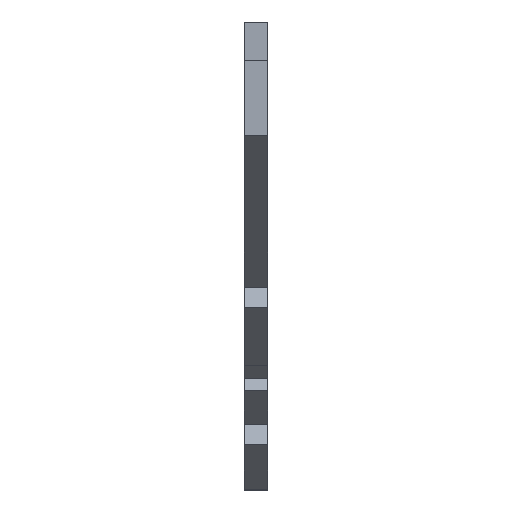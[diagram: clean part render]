
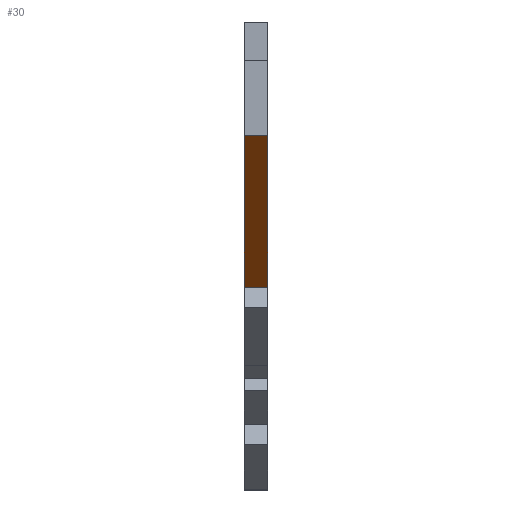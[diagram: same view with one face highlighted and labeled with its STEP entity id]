
A CAD part, top view. The second image highlights one B-rep face of the part: STEP entity #30.
In plain terms, the highlighted planar face has unit normal (0, -0.866, 0.5).
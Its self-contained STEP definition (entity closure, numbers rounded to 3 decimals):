
#30=ADVANCED_FACE('',(#81),#823,.T.);
#81=FACE_OUTER_BOUND('',#132,.T.);
#132=EDGE_LOOP('',(#228,#229,#230,#231));
#228=ORIENTED_EDGE('',*,*,#452,.T.);
#229=ORIENTED_EDGE('',*,*,#481,.F.);
#230=ORIENTED_EDGE('',*,*,#478,.F.);
#231=ORIENTED_EDGE('',*,*,#479,.T.);
#452=EDGE_CURVE('',#730,#731,#591,.T.);
#478=EDGE_CURVE('',#749,#748,#617,.T.);
#479=EDGE_CURVE('',#749,#730,#618,.T.);
#481=EDGE_CURVE('',#748,#731,#620,.T.);
#591=B_SPLINE_CURVE_WITH_KNOTS('',1,(#1194,#1195),.UNSPECIFIED.,.F.,.F.,
(2,2),(0.,3.),.UNSPECIFIED.);
#617=B_SPLINE_CURVE_WITH_KNOTS('',1,(#1246,#1247),.UNSPECIFIED.,.F.,.F.,
(2,2),(-3.,0.),.UNSPECIFIED.);
#618=B_SPLINE_CURVE_WITH_KNOTS('',1,(#1248,#1249),.UNSPECIFIED.,.F.,.F.,
(2,2),(-3.,-2.572),.UNSPECIFIED.);
#620=B_SPLINE_CURVE_WITH_KNOTS('',1,(#1252,#1253),.UNSPECIFIED.,.F.,.F.,
(2,2),(-3.,-2.572),.UNSPECIFIED.);
#730=VERTEX_POINT('',#1090);
#731=VERTEX_POINT('',#1091);
#748=VERTEX_POINT('',#1108);
#749=VERTEX_POINT('',#1109);
#823=PLANE('',#891);
#891=AXIS2_PLACEMENT_3D('',#1049,#938,$);
#938=DIRECTION('',(0.,-0.866,0.5));
#1049=CARTESIAN_POINT('',(48.249,-149.639,121.116));
#1090=CARTESIAN_POINT('',(48.249,-169.069,87.462));
#1091=CARTESIAN_POINT('',(51.249,-169.069,87.462));
#1108=CARTESIAN_POINT('',(51.249,-149.639,121.116));
#1109=CARTESIAN_POINT('',(48.249,-149.639,121.116));
#1194=CARTESIAN_POINT('',(48.249,-169.069,87.462));
#1195=CARTESIAN_POINT('',(51.249,-169.069,87.462));
#1246=CARTESIAN_POINT('',(48.249,-149.639,121.116));
#1247=CARTESIAN_POINT('',(51.249,-149.639,121.116));
#1248=CARTESIAN_POINT('',(48.249,-149.639,121.116));
#1249=CARTESIAN_POINT('',(48.249,-169.069,87.462));
#1252=CARTESIAN_POINT('',(51.249,-149.639,121.116));
#1253=CARTESIAN_POINT('',(51.249,-169.069,87.462));
